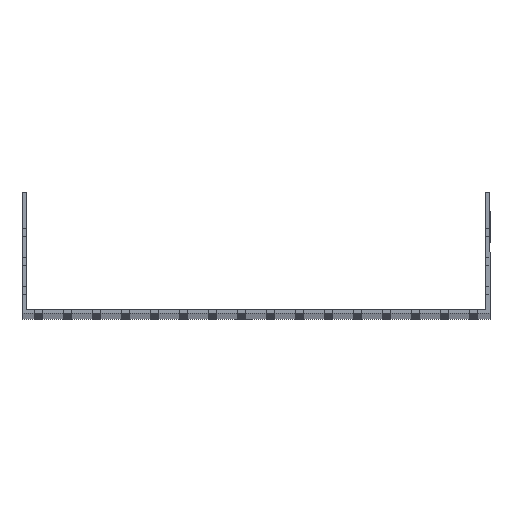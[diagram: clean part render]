
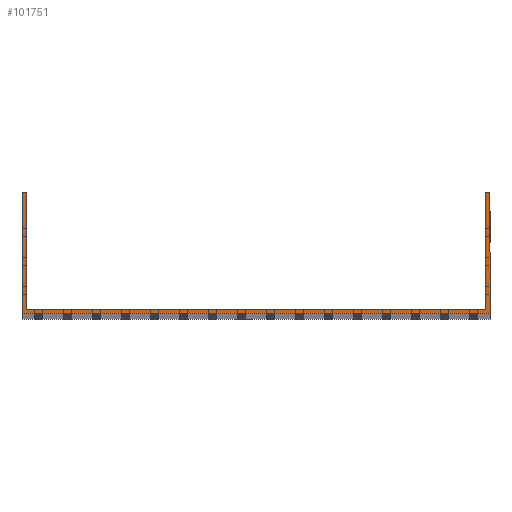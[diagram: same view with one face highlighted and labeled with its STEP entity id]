
A CAD part, top view. The second image highlights one B-rep face of the part: STEP entity #101751.
In plain terms, the highlighted planar face has unit normal (0, 0, 1).
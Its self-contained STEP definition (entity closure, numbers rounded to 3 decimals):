
#893 = DIRECTION ( 'NONE',  ( 0., 1., 0. ) ) ;
#2014 = DIRECTION ( 'NONE',  ( 0., 1., 0. ) ) ;
#2471 = EDGE_CURVE ( 'NONE', #186439, #9954, #45073, .T. ) ;
#9813 = DIRECTION ( 'NONE',  ( 0., -1., 0. ) ) ;
#9954 = VERTEX_POINT ( 'NONE', #175505 ) ;
#11227 = VECTOR ( 'NONE', #75627, 1000. ) ;
#11941 = ORIENTED_EDGE ( 'NONE', *, *, #128372, .T. ) ;
#22729 = ORIENTED_EDGE ( 'NONE', *, *, #81142, .F. ) ;
#28111 = CARTESIAN_POINT ( 'NONE',  ( 0., 0., 1500. ) ) ;
#28564 = LINE ( 'NONE', #213751, #116927 ) ;
#28959 = VECTOR ( 'NONE', #2014, 1000. ) ;
#32385 = VECTOR ( 'NONE', #9813, 1000. ) ;
#39857 = VECTOR ( 'NONE', #206763, 1000. ) ;
#40073 = CARTESIAN_POINT ( 'NONE',  ( -202., 3.5, 1500. ) ) ;
#44934 = DIRECTION ( 'NONE',  ( -1., 0., 0. ) ) ;
#45073 = LINE ( 'NONE', #59272, #11227 ) ;
#46221 = EDGE_CURVE ( 'NONE', #9954, #107383, #186594, .T. ) ;
#51016 = CARTESIAN_POINT ( 'NONE',  ( 202., 104., 1500. ) ) ;
#57599 = PLANE ( 'NONE',  #138635 ) ;
#57970 = CARTESIAN_POINT ( 'NONE',  ( -202., 0., 1500. ) ) ;
#59272 = CARTESIAN_POINT ( 'NONE',  ( -202., 104., 1500. ) ) ;
#61291 = EDGE_CURVE ( 'NONE', #95602, #161149, #110833, .T. ) ;
#62060 = CARTESIAN_POINT ( 'NONE',  ( -198.5, 104., 1500. ) ) ;
#65279 = CARTESIAN_POINT ( 'NONE',  ( 198.5, 104., 1500. ) ) ;
#67415 = LINE ( 'NONE', #65279, #28959 ) ;
#70042 = CARTESIAN_POINT ( 'NONE',  ( -198.5, 3.5, 1500. ) ) ;
#75400 = ORIENTED_EDGE ( 'NONE', *, *, #61291, .F. ) ;
#75627 = DIRECTION ( 'NONE',  ( 0., -1., 0. ) ) ;
#81083 = EDGE_CURVE ( 'NONE', #107744, #95602, #211338, .T. ) ;
#81142 = EDGE_CURVE ( 'NONE', #161149, #85283, #67415, .T. ) ;
#83165 = ORIENTED_EDGE ( 'NONE', *, *, #211922, .T. ) ;
#85283 = VERTEX_POINT ( 'NONE', #121741 ) ;
#95602 = VERTEX_POINT ( 'NONE', #70042 ) ;
#101751 = ADVANCED_FACE ( 'NONE', ( #174194 ), #57599, .T. ) ;
#107383 = VERTEX_POINT ( 'NONE', #189737 ) ;
#107744 = VERTEX_POINT ( 'NONE', #137207 ) ;
#110578 = CARTESIAN_POINT ( 'NONE',  ( -202., 104., 1500. ) ) ;
#110833 = LINE ( 'NONE', #40073, #39857 ) ;
#115179 = DIRECTION ( 'NONE',  ( -1., 0., 0. ) ) ;
#116927 = VECTOR ( 'NONE', #44934, 1000. ) ;
#121741 = CARTESIAN_POINT ( 'NONE',  ( 198.5, 104., 1500. ) ) ;
#122283 = VECTOR ( 'NONE', #893, 1000. ) ;
#124432 = DIRECTION ( 'NONE',  ( 1., 0., 0. ) ) ;
#127271 = DIRECTION ( 'NONE',  ( 0., 0., 1. ) ) ;
#128372 = EDGE_CURVE ( 'NONE', #107744, #186439, #28564, .T. ) ;
#136768 = CARTESIAN_POINT ( 'NONE',  ( 202., 104., 1500. ) ) ;
#136956 = CARTESIAN_POINT ( 'NONE',  ( 198.5, 3.5, 1500. ) ) ;
#137207 = CARTESIAN_POINT ( 'NONE',  ( -198.5, 104., 1500. ) ) ;
#138243 = ORIENTED_EDGE ( 'NONE', *, *, #46221, .T. ) ;
#138635 = AXIS2_PLACEMENT_3D ( 'NONE', #28111, #127271, #161043 ) ;
#144092 = VERTEX_POINT ( 'NONE', #136768 ) ;
#150164 = LINE ( 'NONE', #51016, #122283 ) ;
#150360 = ORIENTED_EDGE ( 'NONE', *, *, #187638, .T. ) ;
#155411 = EDGE_LOOP ( 'NONE', ( #194600, #11941, #198769, #138243, #150360, #83165, #22729, #75400 ) ) ;
#161043 = DIRECTION ( 'NONE',  ( 1., 0., 0. ) ) ;
#161149 = VERTEX_POINT ( 'NONE', #136956 ) ;
#164219 = LINE ( 'NONE', #182714, #210494 ) ;
#174194 = FACE_OUTER_BOUND ( 'NONE', #155411, .T. ) ;
#175505 = CARTESIAN_POINT ( 'NONE',  ( -202., 0., 1500. ) ) ;
#182714 = CARTESIAN_POINT ( 'NONE',  ( -202., 104., 1500. ) ) ;
#186439 = VERTEX_POINT ( 'NONE', #110578 ) ;
#186594 = LINE ( 'NONE', #57970, #213311 ) ;
#187638 = EDGE_CURVE ( 'NONE', #107383, #144092, #150164, .T. ) ;
#189737 = CARTESIAN_POINT ( 'NONE',  ( 202., 0., 1500. ) ) ;
#194600 = ORIENTED_EDGE ( 'NONE', *, *, #81083, .F. ) ;
#198769 = ORIENTED_EDGE ( 'NONE', *, *, #2471, .T. ) ;
#206763 = DIRECTION ( 'NONE',  ( 1., 0., 0. ) ) ;
#210494 = VECTOR ( 'NONE', #115179, 1000. ) ;
#211338 = LINE ( 'NONE', #62060, #32385 ) ;
#211922 = EDGE_CURVE ( 'NONE', #144092, #85283, #164219, .T. ) ;
#213311 = VECTOR ( 'NONE', #124432, 1000. ) ;
#213751 = CARTESIAN_POINT ( 'NONE',  ( -202., 104., 1500. ) ) ;
